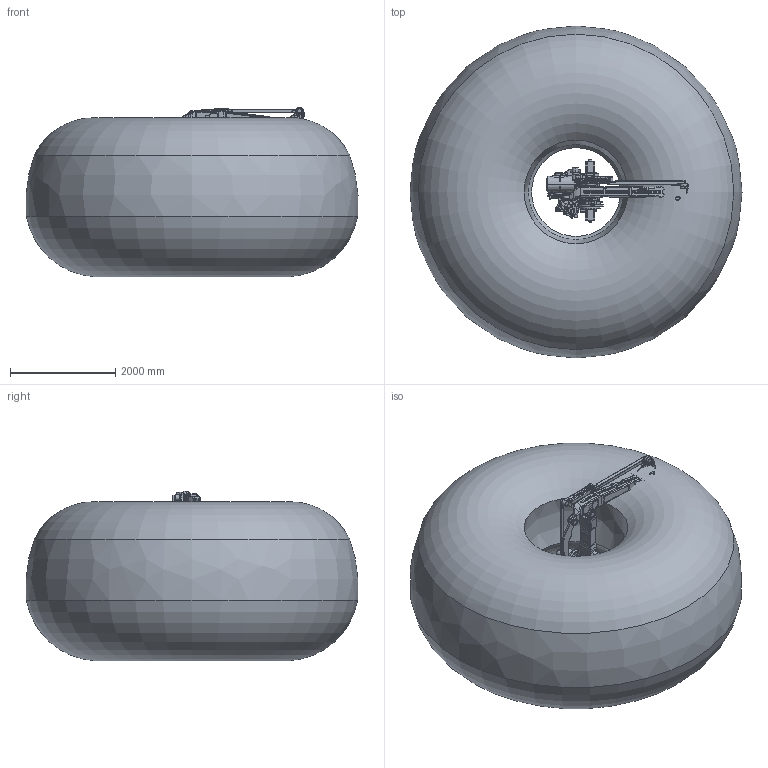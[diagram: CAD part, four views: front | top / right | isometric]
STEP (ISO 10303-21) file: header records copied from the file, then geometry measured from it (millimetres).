
FILE_DESCRIPTION(/* description */ (''),/* implementation_level */ '2;1');
FILE_NAME(/* name */ 'PL190-A00.stp',/* time_stamp */ '2022-03-24T10:57:28+01:00',/* author */ (''),/* organization */ (''),/* preprocessor_version */ 'ST-DEVELOPER v16.7',/* originating_system */ 'SIEMENS PLM Software NX 1919',/* authorisation */ '');
FILE_SCHEMA (('AUTOMOTIVE_DESIGN { 1 0 10303 214 3 1 1 1 }'));
Length unit declared in the file: millimetre
Products named in the file (15): PL190_Range; T_VIEW_04LXH190-B00; WRIST_VIEW_04LXH190-B00; LINKE_VIEW_04LXH190-B00; LINKD_VIEW_04LXH190-B00; LINKC_VIEW_04LXH190-B00; U_VIEW_04LXH190-B00; LINKA_VIEW_04LXH190-B00; LINKB_VIEW_04LXH190-B00; BALANCER2_VIEW_04LXH190-B00; BALANCER1_VIEW_04LXH190-B00; L_VIEW_04LXH190-B00; S_VIEW_04LXH190-B00; BASE_VIEW_04LXH190-B00; PL190-A00
Assembly tree (14 placements, depth 2):
  PL190-A00
    BASE_VIEW_04LXH190-B00
    S_VIEW_04LXH190-B00
    L_VIEW_04LXH190-B00
    BALANCER1_VIEW_04LXH190-B00
    BALANCER2_VIEW_04LXH190-B00
    LINKB_VIEW_04LXH190-B00
    LINKA_VIEW_04LXH190-B00
    U_VIEW_04LXH190-B00
    LINKC_VIEW_04LXH190-B00
    LINKD_VIEW_04LXH190-B00
    LINKE_VIEW_04LXH190-B00
    WRIST_VIEW_04LXH190-B00
    T_VIEW_04LXH190-B00
    PL190_Range
Bounding box: 6311.12 x 6311.12 x 3221.49 mm (x, y, z)
Volume: 70142360873.4 mm3; surface area: 124261763.3 mm2
Topology: 14 solids, 16 shells, 7750 faces, 20194 edges, 12221 vertices
Faces by surface type: cylinder 2615, plane 1838, bspline 1440, torus 1207, cone 402, sphere 204, extrusion 32, revolution 12
Entity records: 415148 total; most frequent: CARTESIAN_POINT 230772, ORIENTED_EDGE 39482, DIRECTION 23193, EDGE_CURVE 19741, B_SPLINE_CURVE_WITH_KNOTS 12938, VERTEX_POINT 12217, AXIS2_PLACEMENT_3D 10039, EDGE_LOOP 8044
